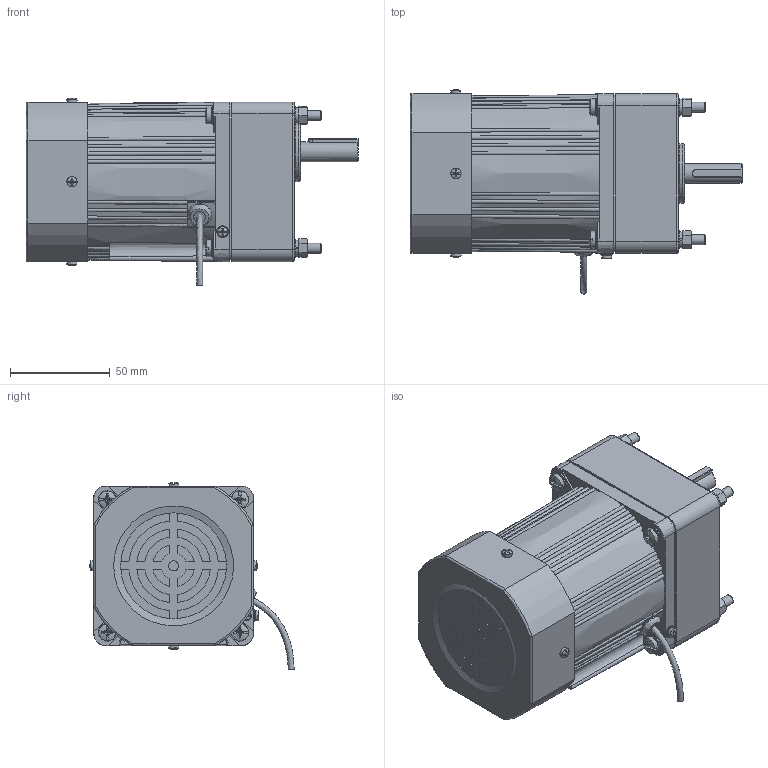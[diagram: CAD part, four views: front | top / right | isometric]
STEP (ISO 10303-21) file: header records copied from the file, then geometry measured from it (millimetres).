
FILE_DESCRIPTION(/* description */ (''),/* implementation_level */ '2;1');
FILE_NAME(/* name */ '4RK25-30CC·F-4GN3-20K-C·10T.stp',/* time_stamp */ '2024-11-02T11:20:11+08:00',/* author */ (''),/* organization */ (''),/* preprocessor_version */ 'ST-DEVELOPER v18.102',/* originating_system */ 'SIEMENS PLM Software NX 2027',/* authorisation */ '');
FILE_SCHEMA (('AP203_CONFIGURATION_CONTROLLED_3D_DESIGN_OF_MECHANICAL_PARTS_AND_ASSEMBLIES_MIM_LF { 1 0 10303 403 2 1 2}'));
Length unit declared in the file: millimetre
Products named in the file (1): 4RK25-30CC-4GN3-20K-C·10T_stp_YF80229CE281axlg
Bounding box: 166.3 x 102.23 x 93.96 mm (x, y, z)
Volume: 748124.3 mm3; surface area: 88061.5 mm2
Topology: 20 solids, 20 shells, 1063 faces, 2802 edges, 1810 vertices
Faces by surface type: plane 369, bspline 310, cylinder 192, cone 123, torus 41, sphere 22, revolution 6
Full cylindrical faces by diameter (mm): 2.6 x1, 3.2 x1, 4 x1, 4.351 x4, 4.4 x1, 4.6 x4, 5 x6, 5.1 x5, 5.3 x8, 5.849 x1, 6 x10, 6.5 x4, 8.5 x4, 9 x8, 10 x1, 10.5 x1, 12 x1, 19 x1, 26 x1, 30 x1, 56 x1, 67 x1, 75 x2, 77.5 x1
Entity records: 38895 total; most frequent: CARTESIAN_POINT 16170, ORIENTED_EDGE 5230, DIRECTION 3402, EDGE_CURVE 2615, VERTEX_POINT 1751, AXIS2_PLACEMENT_3D 1380, B_SPLINE_CURVE_WITH_KNOTS 1345, EDGE_LOOP 1324
